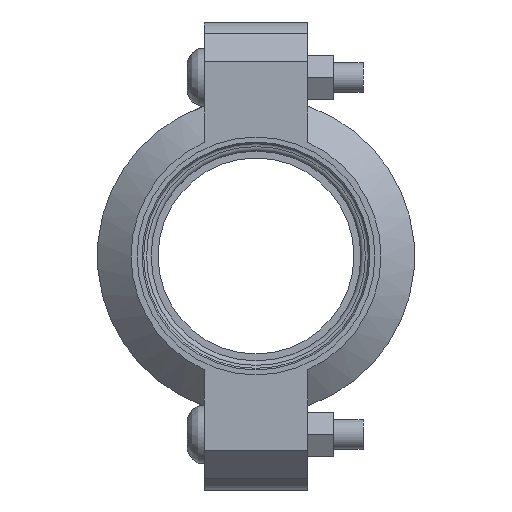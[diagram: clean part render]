
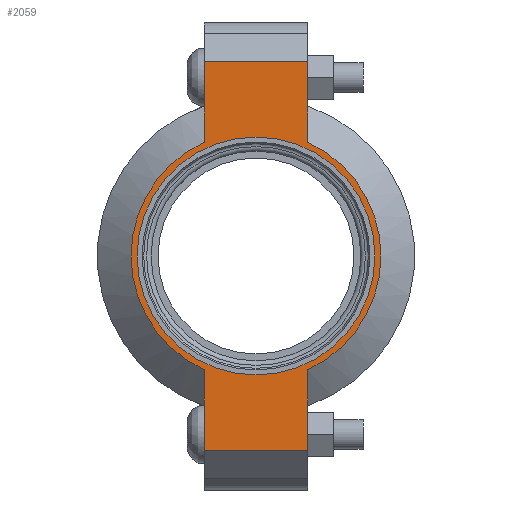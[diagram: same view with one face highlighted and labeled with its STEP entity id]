
A CAD part, left-side view. The second image highlights one B-rep face of the part: STEP entity #2059.
In plain terms, the highlighted planar face has unit normal (-1, 0, 0) as drawn and (0, 0, 1) by its records, which use the part's own axes.
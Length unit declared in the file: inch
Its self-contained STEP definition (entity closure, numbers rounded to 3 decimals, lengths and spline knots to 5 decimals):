
#174=LINE('',#3686,#275);
#187=LINE('',#3730,#288);
#192=LINE('',#3754,#293);
#199=LINE('',#3772,#300);
#206=LINE('',#3797,#307);
#207=LINE('',#3800,#308);
#275=VECTOR('',#2994,0.3937);
#288=VECTOR('',#3023,0.3937);
#293=VECTOR('',#3034,0.3937);
#300=VECTOR('',#3051,0.3937);
#307=VECTOR('',#3072,0.3937);
#308=VECTOR('',#3077,0.3937);
#364=FACE_BOUND('',#634,.T.);
#410=PLANE('',#2426);
#507=FACE_OUTER_BOUND('',#633,.T.);
#633=EDGE_LOOP('',(#1802,#1803,#1804,#1805,#1806,#1807,#1808,#1809));
#634=EDGE_LOOP('',(#1810));
#778=CIRCLE('',#2364,1.5);
#806=CIRCLE('',#2427,1.575);
#807=CIRCLE('',#2428,1.575);
#929=VERTEX_POINT('',#3474);
#972=VERTEX_POINT('',#3681);
#973=VERTEX_POINT('',#3685);
#989=VERTEX_POINT('',#3727);
#990=VERTEX_POINT('',#3729);
#996=VERTEX_POINT('',#3749);
#997=VERTEX_POINT('',#3753);
#1002=VERTEX_POINT('',#3769);
#1003=VERTEX_POINT('',#3771);
#1168=EDGE_CURVE('',#929,#929,#778,.T.);
#1230=EDGE_CURVE('',#973,#972,#174,.T.);
#1250=EDGE_CURVE('',#990,#989,#187,.T.);
#1259=EDGE_CURVE('',#997,#996,#192,.T.);
#1268=EDGE_CURVE('',#1003,#1002,#199,.T.);
#1280=EDGE_CURVE('',#997,#989,#206,.T.);
#1281=EDGE_CURVE('',#996,#1003,#806,.T.);
#1282=EDGE_CURVE('',#973,#1002,#207,.T.);
#1283=EDGE_CURVE('',#972,#990,#807,.T.);
#1802=ORIENTED_EDGE('',*,*,#1280,.F.);
#1803=ORIENTED_EDGE('',*,*,#1259,.T.);
#1804=ORIENTED_EDGE('',*,*,#1281,.T.);
#1805=ORIENTED_EDGE('',*,*,#1268,.T.);
#1806=ORIENTED_EDGE('',*,*,#1282,.F.);
#1807=ORIENTED_EDGE('',*,*,#1230,.T.);
#1808=ORIENTED_EDGE('',*,*,#1283,.T.);
#1809=ORIENTED_EDGE('',*,*,#1250,.T.);
#1810=ORIENTED_EDGE('',*,*,#1168,.T.);
#2059=ADVANCED_FACE('',(#507,#364),#410,.T.);
#2364=AXIS2_PLACEMENT_3D('',#3476,#2874,#2875);
#2426=AXIS2_PLACEMENT_3D('',#3798,#3073,#3074);
#2427=AXIS2_PLACEMENT_3D('',#3799,#3075,#3076);
#2428=AXIS2_PLACEMENT_3D('',#3801,#3078,#3079);
#2874=DIRECTION('center_axis',(0.,0.,-1.));
#2875=DIRECTION('ref_axis',(1.,0.,0.));
#2994=DIRECTION('',(1.,0.,0.));
#3023=DIRECTION('',(1.,0.,0.));
#3034=DIRECTION('',(-1.,0.,0.));
#3051=DIRECTION('',(-1.,0.,0.));
#3072=DIRECTION('',(0.,-1.,0.));
#3073=DIRECTION('center_axis',(0.,0.,1.));
#3074=DIRECTION('ref_axis',(-1.,0.,0.));
#3075=DIRECTION('center_axis',(0.,0.,1.));
#3076=DIRECTION('ref_axis',(1.,0.,0.));
#3077=DIRECTION('',(0.,1.,0.));
#3078=DIRECTION('center_axis',(0.,0.,1.));
#3079=DIRECTION('ref_axis',(1.,0.,0.));
#3474=CARTESIAN_POINT('',(-1.5,0.,0.94));
#3476=CARTESIAN_POINT('Origin',(0.,0.,0.94));
#3681=CARTESIAN_POINT('',(-1.43462,-0.65,0.94));
#3685=CARTESIAN_POINT('',(-2.45,-0.65,0.94));
#3686=CARTESIAN_POINT('',(2.95,-0.65,0.94));
#3727=CARTESIAN_POINT('',(2.45,-0.65,0.94));
#3729=CARTESIAN_POINT('',(1.43462,-0.65,0.94));
#3730=CARTESIAN_POINT('',(2.95,-0.65,0.94));
#3749=CARTESIAN_POINT('',(1.43462,0.65,0.94));
#3753=CARTESIAN_POINT('',(2.45,0.65,0.94));
#3754=CARTESIAN_POINT('',(-2.95,0.65,0.94));
#3769=CARTESIAN_POINT('',(-2.45,0.65,0.94));
#3771=CARTESIAN_POINT('',(-1.43462,0.65,0.94));
#3772=CARTESIAN_POINT('',(-2.95,0.65,0.94));
#3797=CARTESIAN_POINT('',(2.45,-0.325,0.94));
#3798=CARTESIAN_POINT('Origin',(0.,0.,
0.94));
#3799=CARTESIAN_POINT('Origin',(0.,0.,0.94));
#3800=CARTESIAN_POINT('',(-2.45,0.325,0.94));
#3801=CARTESIAN_POINT('Origin',(0.,0.,0.94));
